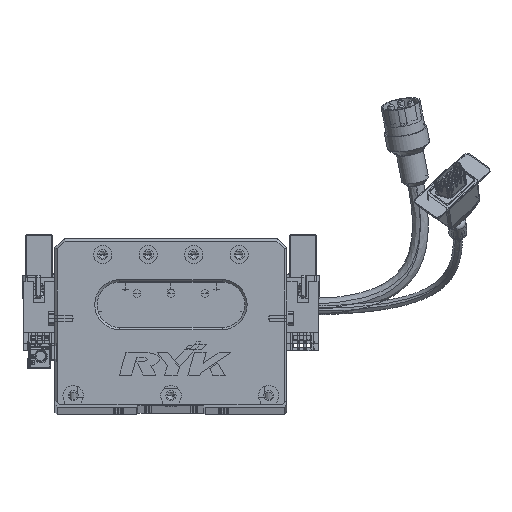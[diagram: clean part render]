
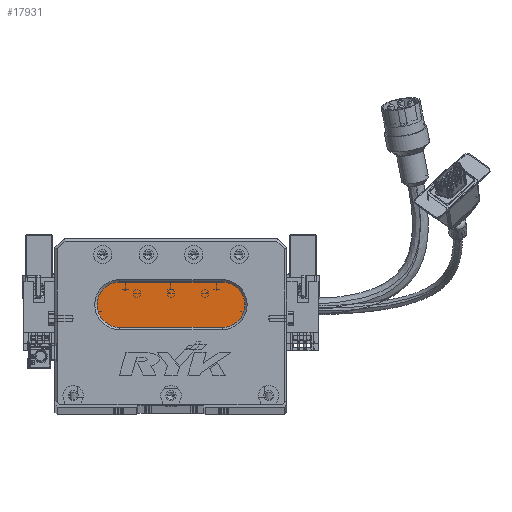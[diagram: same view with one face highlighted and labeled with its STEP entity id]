
A CAD part, top view. The second image highlights one B-rep face of the part: STEP entity #17931.
In plain terms, the highlighted planar face has unit normal (0, 0, 1) as drawn and (0, 0, -1) by its records, which use the part's own axes.
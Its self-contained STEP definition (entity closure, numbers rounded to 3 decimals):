
#374 = CARTESIAN_POINT ( 'NONE',  ( 73.5, 54., 13. ) ) ;
#1179 = EDGE_CURVE ( 'NONE', #66261, #18635, #26510, .T. ) ;
#5865 = DIRECTION ( 'NONE',  ( -1., 0., 0. ) ) ;
#7813 = EDGE_LOOP ( 'NONE', ( #24175, #31297, #65838, #22021, #63670 ) ) ;
#9713 = CIRCLE ( 'NONE', #71747, 10. ) ;
#10008 = DIRECTION ( 'NONE',  ( 1., 0., 0. ) ) ;
#10409 = EDGE_CURVE ( 'NONE', #18635, #66815, #46696, .T. ) ;
#15414 = VECTOR ( 'NONE', #5865, 1000. ) ;
#17931 = ADVANCED_FACE ( 'NONE', ( #40752 ), #37175, .T. ) ;
#18635 = VERTEX_POINT ( 'NONE', #31598 ) ;
#19052 = DIRECTION ( 'NONE',  ( 0., 0., -1. ) ) ;
#21216 = DIRECTION ( 'NONE',  ( 0., 0., -1. ) ) ;
#22021 = ORIENTED_EDGE ( 'NONE', *, *, #27572, .T. ) ;
#22607 = VERTEX_POINT ( 'NONE', #374 ) ;
#24175 = ORIENTED_EDGE ( 'NONE', *, *, #64004, .T. ) ;
#24510 = DIRECTION ( 'NONE',  ( -1., 0., 0. ) ) ;
#25377 = DIRECTION ( 'NONE',  ( -1., 0., 0. ) ) ;
#26373 = DIRECTION ( 'NONE',  ( 0., 0., -1. ) ) ;
#26510 = LINE ( 'NONE', #35302, #15414 ) ;
#27572 = EDGE_CURVE ( 'NONE', #66815, #47224, #48651, .T. ) ;
#31297 = ORIENTED_EDGE ( 'NONE', *, *, #1179, .T. ) ;
#31598 = CARTESIAN_POINT ( 'NONE',  ( 28.5, 34., 13. ) ) ;
#31819 = CARTESIAN_POINT ( 'NONE',  ( 28.5, 44., 13. ) ) ;
#33354 = CARTESIAN_POINT ( 'NONE',  ( 73.5, 44., 13. ) ) ;
#35302 = CARTESIAN_POINT ( 'NONE',  ( 73.5, 34., 13. ) ) ;
#36353 = CARTESIAN_POINT ( 'NONE',  ( 18.5, 44., 13. ) ) ;
#37175 = PLANE ( 'NONE',  #67699 ) ;
#40752 = FACE_OUTER_BOUND ( 'NONE', #7813, .T. ) ;
#45041 = DIRECTION ( 'NONE',  ( -1., 0., 0. ) ) ;
#45422 = AXIS2_PLACEMENT_3D ( 'NONE', #31819, #26373, #55680 ) ;
#45910 = AXIS2_PLACEMENT_3D ( 'NONE', #48196, #73087, #25377 ) ;
#46688 = LINE ( 'NONE', #56607, #68964 ) ;
#46696 = CIRCLE ( 'NONE', #45422, 10. ) ;
#47224 = VERTEX_POINT ( 'NONE', #74987 ) ;
#48196 = CARTESIAN_POINT ( 'NONE',  ( 28.5, 44., 13. ) ) ;
#48651 = CIRCLE ( 'NONE', #45910, 10. ) ;
#55680 = DIRECTION ( 'NONE',  ( -1., 0., 0. ) ) ;
#56607 = CARTESIAN_POINT ( 'NONE',  ( 73.5, 54., 13. ) ) ;
#56635 = EDGE_CURVE ( 'NONE', #47224, #22607, #46688, .T. ) ;
#59557 = CARTESIAN_POINT ( 'NONE',  ( 73.5, 34., 13. ) ) ;
#63670 = ORIENTED_EDGE ( 'NONE', *, *, #56635, .T. ) ;
#64004 = EDGE_CURVE ( 'NONE', #22607, #66261, #9713, .T. ) ;
#65838 = ORIENTED_EDGE ( 'NONE', *, *, #10409, .T. ) ;
#66261 = VERTEX_POINT ( 'NONE', #59557 ) ;
#66815 = VERTEX_POINT ( 'NONE', #36353 ) ;
#67699 = AXIS2_PLACEMENT_3D ( 'NONE', #71939, #19052, #24510 ) ;
#68964 = VECTOR ( 'NONE', #10008, 1000. ) ;
#71747 = AXIS2_PLACEMENT_3D ( 'NONE', #33354, #21216, #45041 ) ;
#71939 = CARTESIAN_POINT ( 'NONE',  ( 73.5, 44., 13. ) ) ;
#73087 = DIRECTION ( 'NONE',  ( 0., 0., -1. ) ) ;
#74987 = CARTESIAN_POINT ( 'NONE',  ( 28.5, 54., 13. ) ) ;
